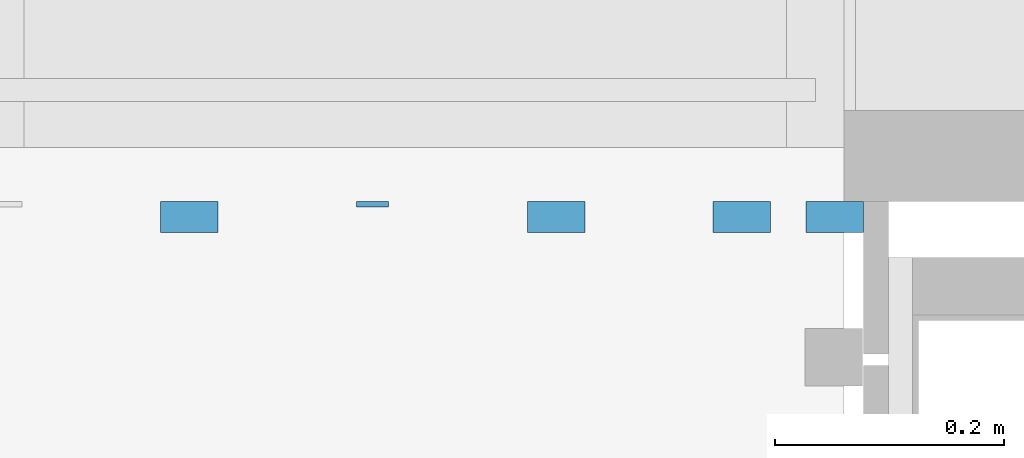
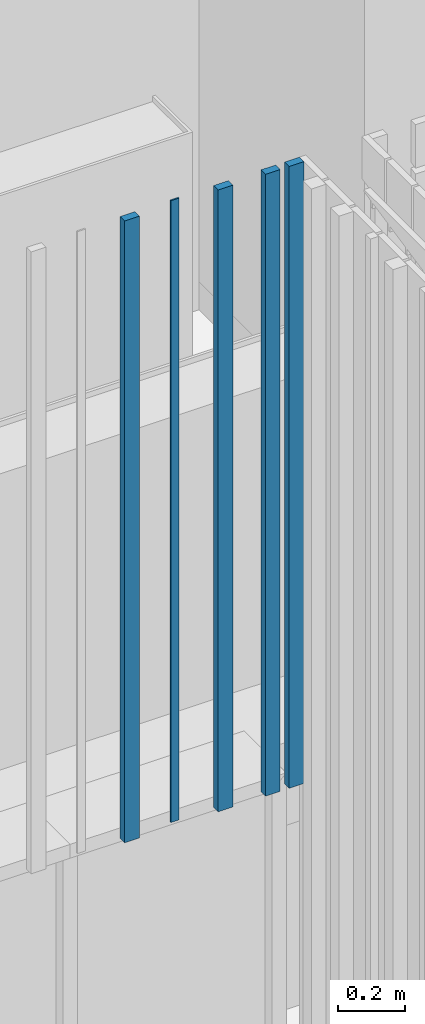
# One storey, part 151 of 390: 5 walls.
"""IFC2X3 building model written with IfcOpenShell, lengths in millimetres."""

from ifc_helpers import new_model, entity, si_unit, converted_unit, derived_unit, money_unit, direction, frame, origin_with_axes, place, context, subcontext, project, spatial, faceted_brep, material, type_object, element, save


model = new_model("IFC2X3")

# Units and contexts
model_context = context("Model", 3, precision=1e-05, world=origin_with_axes(), true_north=direction((0.0, 1.0)))
body_context = subcontext(model_context, "Body", "Model", "MODEL_VIEW")
ifc_project = project(units=[si_unit("LENGTHUNIT", "METRE", prefix="MILLI"), si_unit("AREAUNIT", "SQUARE_METRE"), si_unit("VOLUMEUNIT", "CUBIC_METRE"), converted_unit("PLANEANGLEUNIT", "DEGREE", entity("IfcPlaneAngleMeasure", 0.0174532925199), si_unit("PLANEANGLEUNIT", "RADIAN"), dimensions=[0, 0, 0, 0, 0, 0, 0]), si_unit("SOLIDANGLEUNIT", "STERADIAN"), money_unit("EUR"), converted_unit("TIMEUNIT", "Year", entity("IfcTimeMeasure", 31556926.0), si_unit("TIMEUNIT", "SECOND"), dimensions=[0, 0, 1, 0, 0, 0, 0]), si_unit("MASSUNIT", "GRAM", prefix="KILO"), si_unit("THERMODYNAMICTEMPERATUREUNIT", "DEGREE_CELSIUS"), si_unit("LUMINOUSINTENSITYUNIT", "LUMEN"), si_unit("ENERGYUNIT", "JOULE", prefix="MEGA"), derived_unit("THERMALCONDUCTANCEUNIT", [(si_unit("POWERUNIT", "WATT"), 1), (si_unit("LENGTHUNIT", "METRE"), -1), (si_unit("THERMODYNAMICTEMPERATUREUNIT", "KELVIN"), -1)]), derived_unit("SPECIFICHEATCAPACITYUNIT", [(si_unit("ENERGYUNIT", "JOULE"), 1), (si_unit("MASSUNIT", "GRAM", prefix="KILO"), -1), (si_unit("THERMODYNAMICTEMPERATUREUNIT", "KELVIN"), -1)]), derived_unit("MASSDENSITYUNIT", [(si_unit("MASSUNIT", "GRAM", prefix="KILO"), 1), (si_unit("VOLUMEUNIT", "CUBIC_METRE"), -1)])], contexts=[model_context])

# Site, building, storey
site_placement = place(None, origin_with_axes())
site = spatial("IfcSite", under=ifc_project, at=site_placement, Name="Site", CompositionType="ELEMENT")
building_placement = place(site_placement, origin_with_axes())
building = spatial("IfcBuilding", under=site, at=building_placement, Name="Building", CompositionType="ELEMENT")
storey_placement = place(building_placement, origin_with_axes())
storey = spatial("IfcBuildingStorey", under=building, at=storey_placement, Name="1 korrus", CompositionType="ELEMENT", Elevation=0.0)

# Walls
ifc_material = material(Name="Site specified")
wall_type = type_object("IfcWallType", Name="Puitfassaadi ribistik", PredefinedType="NOTDEFINED")
wall_1_placement = place(storey_placement, frame((132468.999994, 45272.000026, 7614.99996126), z_axis=(0.0, 0.0, 1.0), x_axis=(-1.0, 0.0, 0.0)))
element("IfcWall", 1, at=wall_1_placement, inside=storey, type_object=wall_type, material=ifc_material, Name="Site specified", context=body_context, shape_type="Brep", body=[
    faceted_brep([(-14.0, 14.0, 0.0), (-14.0, 9.00001560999, 0.0), (-14.0, 9.00001759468, 2250.00003874), (-14.0, 14.0, 2250.00003874), (14.0, 14.0, 0.0), (14.0, 9.00001561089, 0.0), (14.0, 9.00001759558, 2250.00003874), (14.0, 14.0, 2250.00003874)], [[[0, 1, 2, 3]], [[4, 5, 1, 0]], [[6, 2, 1, 5]], [[3, 2, 6, 7]], [[3, 7, 4, 0]], [[6, 5, 4, 7]]]),
])
wall_2_placement = place(storey_placement, frame((132308.999994, 45260.9999686, 7614.99996126), z_axis=(0.0, 0.0, 1.0), x_axis=(-1.0, 0.0, 0.0)))
element("IfcWall", 2, at=wall_2_placement, inside=storey, type_object=wall_type, material=ifc_material, Name="Site specified", context=body_context, shape_type="Brep", body=[
    faceted_brep([(-25.0, 25.0, 0.0), (-25.0, -2.00004180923, 0.0), (-25.0, -2.00003982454, 2250.00003874), (-25.0, 25.0, 2250.00003874), (25.0, 25.0, 0.0), (25.0, -2.00004180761, 0.0), (25.0, -2.00003982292, 2250.00003874), (25.0, 25.0, 2250.00003874)], [[[0, 1, 2, 3]], [[4, 5, 1, 0]], [[6, 2, 1, 5]], [[3, 2, 6, 7]], [[3, 7, 4, 0]], [[6, 5, 4, 7]]]),
])
wall_3_placement = place(storey_placement, frame((132628.999994, 45260.9999761, 7614.99996126), z_axis=(0.0, 0.0, 1.0), x_axis=(-1.0, 0.0, 0.0)))
element("IfcWall", 3, at=wall_3_placement, inside=storey, type_object=wall_type, material=ifc_material, Name="Site specified", context=body_context, shape_type="Brep", body=[
    faceted_brep([(-25.0, 25.0, 0.0), (-25.0, -2.00003430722, 0.0), (-25.0, -2.00003232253, 2250.00003874), (-25.0, 25.0, 2250.00003874), (25.0, 25.0, 0.0), (25.0, -2.0000343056, 0.0), (25.0, -2.00003232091, 2250.00003874), (25.0, 25.0, 2250.00003874)], [[[0, 1, 2, 3]], [[4, 5, 1, 0]], [[6, 2, 1, 5]], [[3, 2, 6, 7]], [[3, 7, 4, 0]], [[6, 5, 4, 7]]]),
])
wall_4_placement = place(storey_placement, frame((132872.000037, 45261.000056, 7614.99996126), z_axis=(0.0, 0.0, 1.0), x_axis=(-1.0, 0.0, 0.0)))
element("IfcWall", 4, at=wall_4_placement, inside=storey, type_object=wall_type, material=ifc_material, Name="Site specified", context=body_context, shape_type="Brep", body=[
    faceted_brep([(-25.0, 25.0, 0.0), (-25.0, -1.99995437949, 0.0), (-25.0, -1.9999523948, 2250.00003874), (-25.0, 25.0, 2250.00003874), (25.0, 25.0, 0.0), (25.0, -1.99995437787, 0.0), (25.0, -1.99995239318, 2250.00003874), (25.0, 25.0, 2250.00003874)], [[[0, 1, 2, 3]], [[4, 5, 1, 0]], [[6, 2, 1, 5]], [[3, 2, 6, 7]], [[3, 7, 4, 0]], [[6, 5, 4, 7]]]),
])
wall_5_placement = place(storey_placement, frame((132790.999994, 45260.9999761, 7614.99996126), z_axis=(0.0, 0.0, 1.0), x_axis=(-1.0, 0.0, 0.0)))
element("IfcWall", 5, at=wall_5_placement, inside=storey, type_object=wall_type, material=ifc_material, Name="Site specified", context=body_context, shape_type="Brep", body=[
    faceted_brep([(-25.0, 25.0, 0.0), (-25.0, -2.00003430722, 0.0), (-25.0, -2.00003232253, 2250.00003874), (-25.0, 25.0, 2250.00003874), (25.0, 25.0, 0.0), (25.0, -2.00003430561, 0.0), (25.0, -2.00003232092, 2250.00003874), (25.0, 25.0, 2250.00003874)], [[[0, 1, 2, 3]], [[4, 5, 1, 0]], [[6, 2, 1, 5]], [[3, 2, 6, 7]], [[3, 7, 4, 0]], [[6, 5, 4, 7]]]),
])

save(model, "model.ifc")
